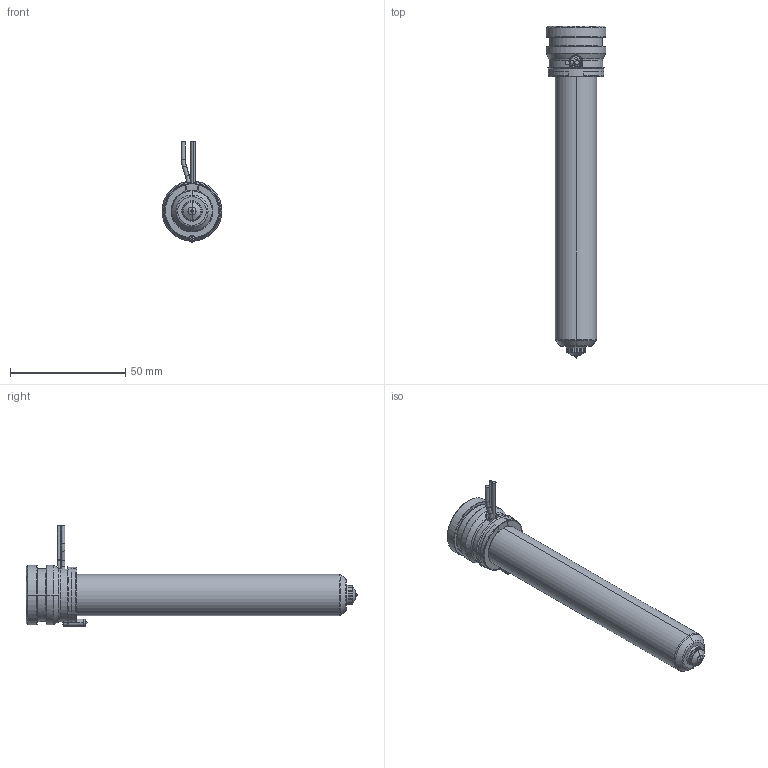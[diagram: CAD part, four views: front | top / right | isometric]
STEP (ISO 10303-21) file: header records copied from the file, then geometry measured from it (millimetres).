
FILE_DESCRIPTION((''),'2;1');
FILE_NAME('MPN-08-24-VSA8-126-A','2026-02-05T12:03:45',('UPTIO'),('Thermoplay S.p.A.'),'CREO PARAMETRIC BY PTC INC, 2023494','CREO PARAMETRIC BY PTC INC, 2023494','');
FILE_SCHEMA(('CONFIG_CONTROL_DESIGN','SHAPE_APPEARANCE_LAYERS_GROUPS'));
Length unit declared in the file: millimetre
Products named in the file (1): MPN-08-24-VSA8-126-A
Bounding box: 26 x 144 x 43.5 mm (x, y, z)
Volume: 27792.3 mm3; surface area: 35694.7 mm2
Topology: 2 solids, 3 shells, 543 faces, 1440 edges, 895 vertices
Faces by surface type: cylinder 182, plane 143, bspline 80, torus 62, cone 60, sphere 10, extrusion 6
Entity records: 29210 total; most frequent: CARTESIAN_POINT 13012, ORIENTED_EDGE 2864, DIRECTION 2580, EDGE_CURVE 1432, AXIS2_PLACEMENT_3D 1007, VERTEX_POINT 895, EDGE_LOOP 571, VECTOR 566
